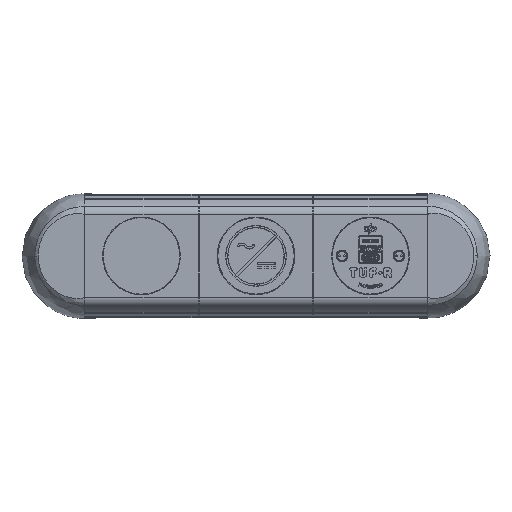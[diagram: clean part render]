
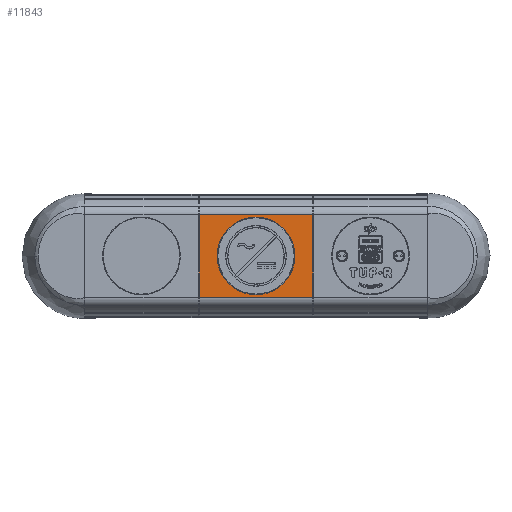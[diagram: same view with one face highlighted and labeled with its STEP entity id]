
A CAD part, top view. The second image highlights one B-rep face of the part: STEP entity #11843.
In plain terms, the highlighted planar face has unit normal (0, 0, 1).
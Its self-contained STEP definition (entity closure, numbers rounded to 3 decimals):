
#254 = VECTOR ( 'NONE', #56356, 1000. ) ;
#1045 = ORIENTED_EDGE ( 'NONE', *, *, #28257, .F. ) ;
#3018 = VERTEX_POINT ( 'NONE', #31344 ) ;
#4270 = CARTESIAN_POINT ( 'NONE',  ( 33.05, -23.944, 45.911 ) ) ;
#4764 = EDGE_LOOP ( 'NONE', ( #11481, #12823, #65524, #27452 ) ) ;
#6672 = DIRECTION ( 'NONE',  ( 0., 0., 1. ) ) ;
#10593 = DIRECTION ( 'NONE',  ( 0., 0., 1. ) ) ;
#10686 = CARTESIAN_POINT ( 'NONE',  ( 33.05, 23.754, 45.89 ) ) ;
#10818 = VERTEX_POINT ( 'NONE', #13633 ) ;
#10821 = CARTESIAN_POINT ( 'NONE',  ( -33., 23.754, 45.89 ) ) ;
#11481 = ORIENTED_EDGE ( 'NONE', *, *, #33014, .F. ) ;
#11553 = VERTEX_POINT ( 'NONE', #52173 ) ;
#11585 = CARTESIAN_POINT ( 'NONE',  ( -0.075, 22.405, 45.89 ) ) ;
#11843 = ADVANCED_FACE ( 'NONE', ( #68269, #67604 ), #21010, .F. ) ;
#11919 = VECTOR ( 'NONE', #22671, 1000. ) ;
#12823 = ORIENTED_EDGE ( 'NONE', *, *, #40536, .T. ) ;
#13633 = CARTESIAN_POINT ( 'NONE',  ( -0.075, -22.595, 45.91 ) ) ;
#15762 = CARTESIAN_POINT ( 'NONE',  ( -0.075, -0.095, 45.9 ) ) ;
#15921 = LINE ( 'NONE', #39727, #36912 ) ;
#16626 = ORIENTED_EDGE ( 'NONE', *, *, #67497, .F. ) ;
#20214 = CARTESIAN_POINT ( 'NONE',  ( -33., -23.944, 45.911 ) ) ;
#21010 = PLANE ( 'NONE',  #31039 ) ;
#21437 = VERTEX_POINT ( 'NONE', #20214 ) ;
#22158 = CIRCLE ( 'NONE', #60691, 22.5 ) ;
#22671 = DIRECTION ( 'NONE',  ( 0., 1., 0. ) ) ;
#26616 = CIRCLE ( 'NONE', #65174, 22.5 ) ;
#27451 = EDGE_CURVE ( 'NONE', #27557, #21437, #29536, .T. ) ;
#27452 = ORIENTED_EDGE ( 'NONE', *, *, #27451, .T. ) ;
#27557 = VERTEX_POINT ( 'NONE', #10821 ) ;
#28257 = EDGE_CURVE ( 'NONE', #10818, #62575, #22158, .T. ) ;
#29209 = LINE ( 'NONE', #4270, #254 ) ;
#29536 = LINE ( 'NONE', #34711, #65117 ) ;
#31039 = AXIS2_PLACEMENT_3D ( 'NONE', #10686, #56560, #46227 ) ;
#31344 = CARTESIAN_POINT ( 'NONE',  ( 32.85, 23.754, 45.89 ) ) ;
#33014 = EDGE_CURVE ( 'NONE', #11553, #21437, #29209, .T. ) ;
#34711 = CARTESIAN_POINT ( 'NONE',  ( -33., 23.754, 45.89 ) ) ;
#36275 = EDGE_CURVE ( 'NONE', #3018, #27557, #15921, .T. ) ;
#36912 = VECTOR ( 'NONE', #44198, 1000. ) ;
#39727 = CARTESIAN_POINT ( 'NONE',  ( 33.05, 23.754, 45.89 ) ) ;
#40536 = EDGE_CURVE ( 'NONE', #11553, #3018, #53729, .T. ) ;
#42329 = DIRECTION ( 'NONE',  ( 0., -1., 0. ) ) ;
#44198 = DIRECTION ( 'NONE',  ( -1., 0., 0. ) ) ;
#45372 = DIRECTION ( 'NONE',  ( 0., -1., 0. ) ) ;
#46227 = DIRECTION ( 'NONE',  ( 0., 1., 0. ) ) ;
#47522 = EDGE_LOOP ( 'NONE', ( #1045, #16626 ) ) ;
#48879 = CARTESIAN_POINT ( 'NONE',  ( 32.85, 23.754, 45.89 ) ) ;
#52173 = CARTESIAN_POINT ( 'NONE',  ( 32.85, -23.944, 45.911 ) ) ;
#53729 = LINE ( 'NONE', #48879, #11919 ) ;
#54259 = DIRECTION ( 'NONE',  ( 0., -1., 0. ) ) ;
#56356 = DIRECTION ( 'NONE',  ( -1., 0., 0. ) ) ;
#56560 = DIRECTION ( 'NONE',  ( 0., 0., -1. ) ) ;
#60691 = AXIS2_PLACEMENT_3D ( 'NONE', #15762, #10593, #42329 ) ;
#62575 = VERTEX_POINT ( 'NONE', #11585 ) ;
#64616 = CARTESIAN_POINT ( 'NONE',  ( -0.075, -0.095, 45.9 ) ) ;
#65117 = VECTOR ( 'NONE', #45372, 1000. ) ;
#65174 = AXIS2_PLACEMENT_3D ( 'NONE', #64616, #6672, #54259 ) ;
#65524 = ORIENTED_EDGE ( 'NONE', *, *, #36275, .T. ) ;
#67497 = EDGE_CURVE ( 'NONE', #62575, #10818, #26616, .T. ) ;
#67604 = FACE_OUTER_BOUND ( 'NONE', #4764, .T. ) ;
#68269 = FACE_BOUND ( 'NONE', #47522, .T. ) ;
